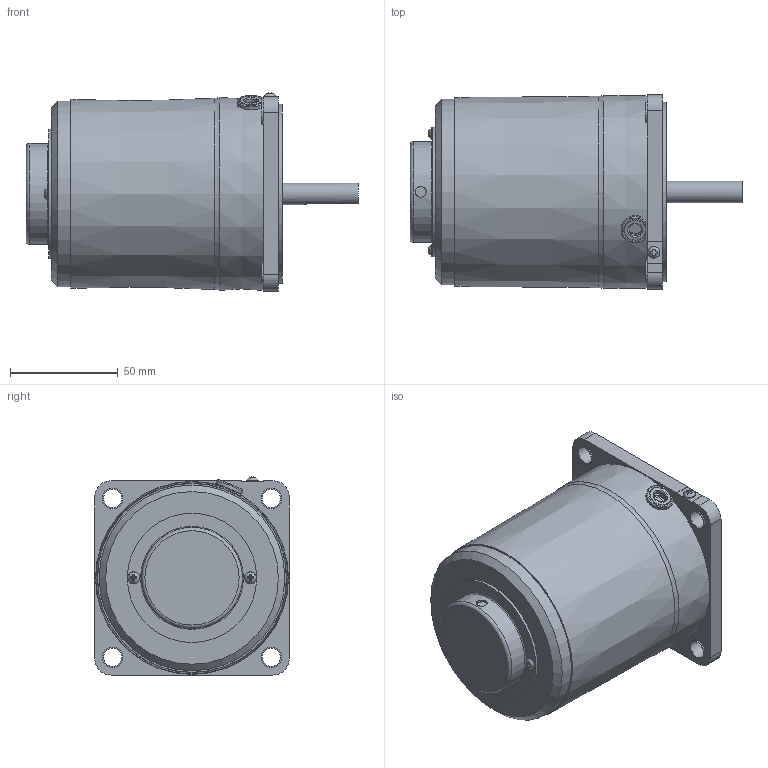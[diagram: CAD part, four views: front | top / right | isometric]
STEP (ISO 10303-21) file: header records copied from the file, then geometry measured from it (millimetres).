
FILE_DESCRIPTION(/* description */ (''),/* implementation_level */ '2;1');
FILE_NAME(/* name */ 'Y:\제품연구개발\3. 도면\3. 고객배포용\3D_홈페이지용\01-1 Standard AC SG Series\05-1 UNIT TYPE SPEED CONTROL MOTOR(V12)\SG9I40_-V12\SG9I40K_-V12.stp',/* time_stamp */ '2023-12-06T14:24:15+09:00',/* author */ ('shyi1037'),/* organization */ (''),/* preprocessor_version */ 'ST-DEVELOPER v18.1',/* originating_system */ 'Autodesk Inventor 2022',/* authorisation */ '');
FILE_SCHEMA (('AUTOMOTIVE_DESIGN { 1 0 10303 214 3 1 1 }'));
Length unit declared in the file: millimetre
Products named in the file (1): SG9I40K_-V12
Bounding box: 153.8 x 90 x 91.76 mm (x, y, z)
Volume: 669134.7 mm3; surface area: 52487.2 mm2
Topology: 1 solids, 6 shells, 167 faces, 408 edges, 270 vertices
Faces by surface type: plane 104, cylinder 46, torus 10, cone 4, bspline 3
Full cylindrical faces by diameter (mm): 3 x2, 3.5 x2, 5 x1, 5.6 x3, 6 x1, 8.5 x4, 9.5 x4, 10 x2, 40 x1, 44.7 x1, 46.7 x1, 47.7 x1, 59.9 x1, 83 x1, 86 x1
Entity records: 5447 total; most frequent: CARTESIAN_POINT 1292, ORIENTED_EDGE 816, DIRECTION 806, EDGE_CURVE 408, AXIS2_PLACEMENT_3D 290, VERTEX_POINT 270, LINE 226, VECTOR 226
